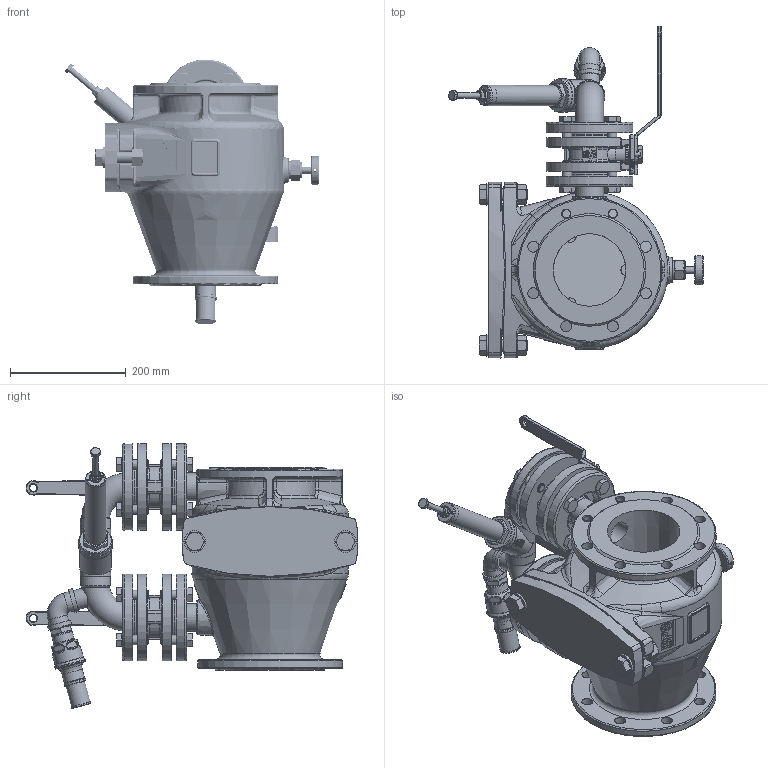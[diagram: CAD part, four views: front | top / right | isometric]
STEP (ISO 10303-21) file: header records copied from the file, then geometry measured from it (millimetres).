
FILE_DESCRIPTION((''),'2;1');
FILE_NAME('Z:\Kunder\BPS\BPS Produkter\BPS 6504\DN 125\6504125.stp','2012-09-05T11:00:44',('Account'),(''),'Autodesk Inventor 2013','Autodesk Inventor 2013','');
FILE_SCHEMA(('AUTOMOTIVE_DESIGN { 1 0 10303 214 1 1 1 1 }'));
Length unit declared in the file: millimetre
Products named in the file (1): Part8
Bounding box: 439.11 x 572.35 x 456.89 mm (x, y, z)
Volume: 9060170 mm3; surface area: 1667751.5 mm2
Topology: 1 solids, 23 shells, 4481 faces, 11278 edges, 7143 vertices
Faces by surface type: plane 2176, bspline 853, cylinder 748, cone 372, torus 272, sphere 60
Full cylindrical faces by diameter (mm): 3.242 x1, 4 x4, 5 x1, 8 x3, 10 x7, 10.1 x1, 12 x3, 12.1 x2, 12.5 x2, 14.4 x1, 14.5 x2, 14.63 x1, 15 x1, 15.6 x2, 16 x37, 16.5 x1, 16.8 x1, 17.294 x2, 17.5 x16, 18.5 x2, 19 x14, 20 x5, 21 x4, 22 x2, 22.49 x16, 23 x1, 24 x3, 24.2 x1, 25 x1, 26.441 x1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
Entity records: 175467 total; most frequent: CARTESIAN_POINT 71828, ORIENTED_EDGE 21394, DIRECTION 18792, EDGE_CURVE 10707, AXIS2_PLACEMENT_3D 7164, VERTEX_POINT 6998, EDGE_LOOP 5382, FACE_OUTER_BOUND 4481
